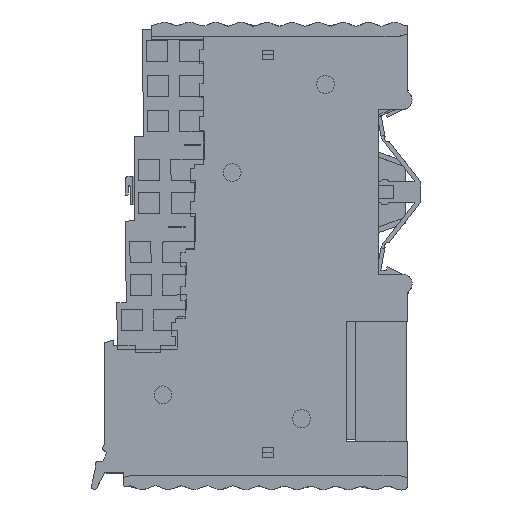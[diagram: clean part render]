
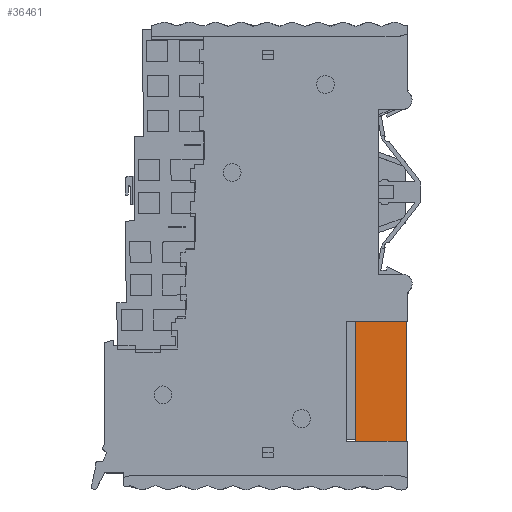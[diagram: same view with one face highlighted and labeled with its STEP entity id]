
A CAD part, top view. The second image highlights one B-rep face of the part: STEP entity #36461.
In plain terms, the highlighted planar face has unit normal (0, 0, 1) as drawn and (0, 0, -1) by its records, which use the part's own axes.
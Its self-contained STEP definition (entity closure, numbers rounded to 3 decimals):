
#35730=DIRECTION('',(-1.,0.,0.));
#35731=VECTOR('',#35730,10.858);
#35732=CARTESIAN_POINT('',(35.53,43.3,-1.7));
#35733=LINE('',#35732,#35731);
#35734=DIRECTION('',(0.,-1.,0.));
#35735=VECTOR('',#35734,32.727);
#35736=CARTESIAN_POINT('',(24.672,43.3,-1.7));
#35737=LINE('',#35736,#35735);
#35738=DIRECTION('',(1.,0.,0.));
#35739=VECTOR('',#35738,10.858);
#35740=CARTESIAN_POINT('',(24.672,10.573,-1.7));
#35741=LINE('',#35740,#35739);
#35742=DIRECTION('',(0.,1.,0.));
#35743=VECTOR('',#35742,32.727);
#35744=CARTESIAN_POINT('',(35.53,10.573,-1.7));
#35745=LINE('',#35744,#35743);
#35944=CARTESIAN_POINT('',(35.53,10.573,-1.7));
#35945=VERTEX_POINT('',#35944);
#35946=CARTESIAN_POINT('',(24.672,10.573,-1.7));
#35947=VERTEX_POINT('',#35946);
#36027=CARTESIAN_POINT('',(24.672,43.3,-1.7));
#36029=VERTEX_POINT('',#36027);
#36030=CARTESIAN_POINT('',(35.53,43.3,-1.7));
#36032=VERTEX_POINT('',#36030);
#36450=CARTESIAN_POINT('',(0.,0.,-1.7));
#36451=DIRECTION('',(0.,0.,-1.));
#36452=DIRECTION('',(0.,-1.,0.));
#36453=AXIS2_PLACEMENT_3D('',#36450,#36451,#36452);
#36454=PLANE('',#36453);
#36455=ORIENTED_EDGE('',*,*,#36419,.T.);
#36456=ORIENTED_EDGE('',*,*,#36404,.T.);
#36457=ORIENTED_EDGE('',*,*,#36099,.T.);
#36458=ORIENTED_EDGE('',*,*,#36433,.T.);
#36459=EDGE_LOOP('',(#36455,#36456,#36457,#36458));
#36460=FACE_OUTER_BOUND('',#36459,.F.);
#36461=ADVANCED_FACE('',(#36460),#36454,.T.);
#36099=EDGE_CURVE('',#35947,#35945,#35741,.T.);
#36404=EDGE_CURVE('',#36029,#35947,#35737,.T.);
#36419=EDGE_CURVE('',#36032,#36029,#35733,.T.);
#36433=EDGE_CURVE('',#35945,#36032,#35745,.T.);
